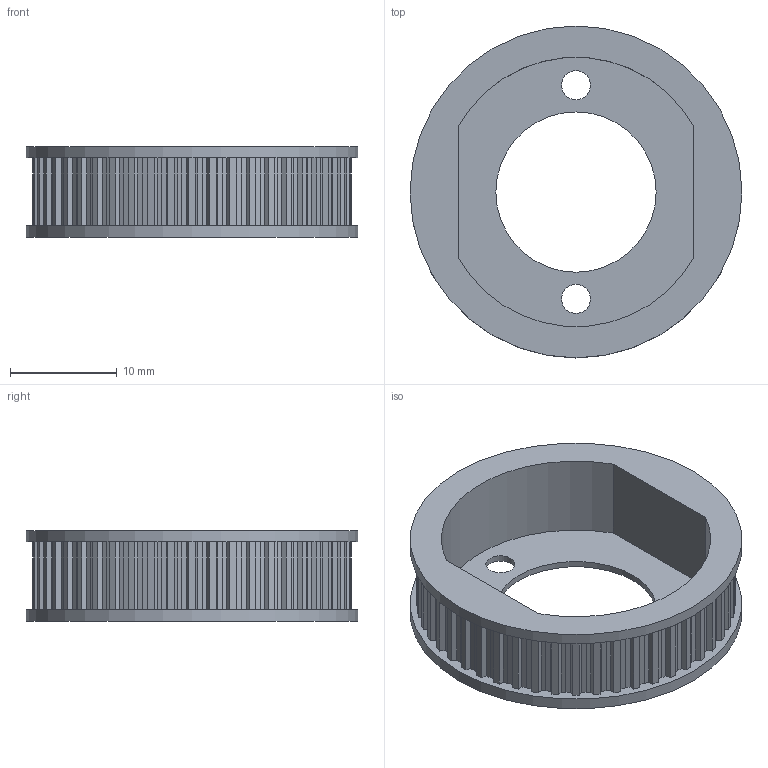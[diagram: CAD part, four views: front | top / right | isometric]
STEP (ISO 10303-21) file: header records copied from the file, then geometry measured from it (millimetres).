
FILE_DESCRIPTION(('Open CASCADE Model'),'2;1');
FILE_NAME('Open CASCADE Shape Model','2026-11-24T20:33:35',('Author'),( 'Open CASCADE'),'Open CASCADE STEP processor 7.8','Open CASCADE 7.8' ,'Unknown');
FILE_SCHEMA(('AUTOMOTIVE_DESIGN { 1 0 10303 214 1 1 1 1 }'));
Length unit declared in the file: millimetre
Products named in the file (1): Open CASCADE STEP translator 7.8 4
Bounding box: 31.06 x 31.06 x 8.5 mm (x, y, z)
Volume: 2046.4 mm3; surface area: 2944.8 mm2
Topology: 1 solids, 1 shells, 254 faces, 747 edges, 498 vertices
Faces by surface type: plane 247, cylinder 7
Full cylindrical faces by diameter (mm): 2.72 x2, 15 x1, 31.058 x2
Entity records: 18018 total; most frequent: CARTESIAN_POINT 2994, DIRECTION 2765, LINE 2213, VECTOR 2213, ORIENTED_EDGE 1494, PCURVE 1494, DEFINITIONAL_REPRESENTATION 1494, EDGE_CURVE 747
